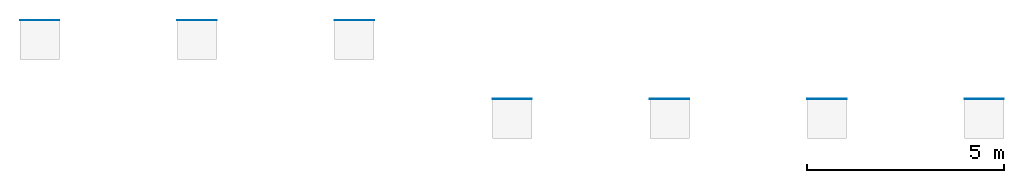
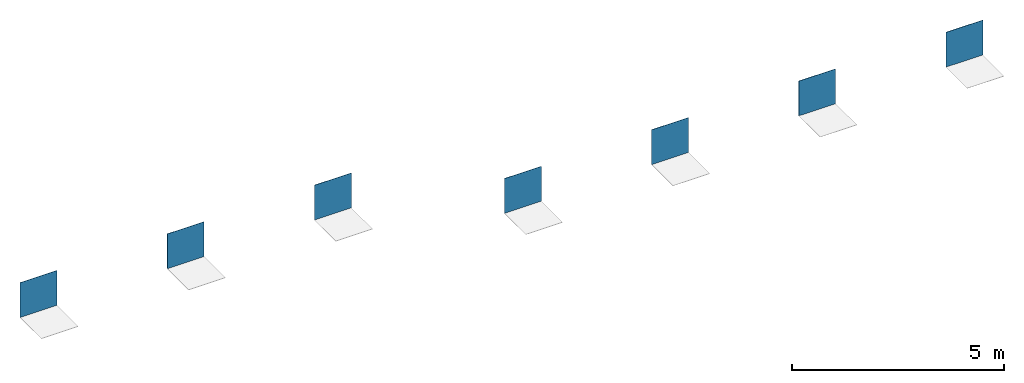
# One storey, part 1 of 2: 7 walls.
"""IFC2X3 building model written with IfcOpenShell, lengths in millimetres."""

import ifcopenshell
import ifcopenshell.guid

model = None  # the IFC model being written
_history = None  # IfcOwnerHistory: only IFC2X3 demands one
_inside = {}  # id of a spatial element -> (the spatial element, [elements in it])
_under = {}  # id of a project, library or spatial element -> (it, [spatial elements below it])
_declared = {}  # id of a project -> (the project, [libraries it declares])
_typed = {}  # id of a type object -> (the type object, [elements of that type])
_made_of = {}  # id of a material, layer set ... -> (it, [elements and type objects made of it])


def new_model(schema):
    """Start an empty IFC model of exactly this schema.

    Asked for "IFC4X3", IfcOpenShell would pick the latest addendum, in which some entities
    have other attributes; the version numbers below select the first issue.
    IFC2X3 requires an IfcOwnerHistory on every rooted entity: one is made here for all.
    """
    global model, _history
    if schema == "IFC4X3":
        model = ifcopenshell.file(schema_version=(4, 3, 0, 0))
    else:
        model = ifcopenshell.file(schema=schema)
    _inside.clear()
    _under.clear()
    _declared.clear()
    _typed.clear()
    _made_of.clear()
    _history = None
    if model.schema == "IFC2X3":
        org = make("IfcOrganization", Name="unknown")
        user = make(
            "IfcPersonAndOrganization",
            ThePerson=make("IfcPerson", FamilyName="unknown"),
            TheOrganization=org,
        )
        app = make(
            "IfcApplication",
            ApplicationDeveloper=org,
            Version="unknown",
            ApplicationFullName="unknown",
            ApplicationIdentifier="unknown",
        )
        _history = make(
            "IfcOwnerHistory",
            OwningUser=user,
            OwningApplication=app,
            ChangeAction="ADDED",
            CreationDate=0,
        )
    return model


def make(cls, **values):
    """One entity of the class cls with the attributes given. An attribute that is None is left unset."""
    return model.create_entity(
        cls, **{name: value for name, value in values.items() if value is not None}
    )


def entity(cls, *values):
    """Any entity or typed value of the class cls, its attributes in the order of the schema. None: left unset."""
    e = model.create_entity(cls)
    for i, value in enumerate(values):
        if value is not None:
            e[i] = value
    return e


def rooted(cls, **values):
    """An entity with a GlobalId (a new one), such as an element, a storey or a relation."""
    return make(cls, GlobalId=ifcopenshell.guid.new(), OwnerHistory=_history, **values)


def si_unit(unit_type, name, prefix=None):
    """IfcSIUnit, for example si_unit("LENGTHUNIT", "METRE", prefix="MILLI")."""
    return make("IfcSIUnit", UnitType=unit_type, Prefix=prefix, Name=name)


def converted_unit(unit_type, name, factor, base, dimensions=None, offset=None):
    """IfcConversionBasedUnit, such as the inch: factor (a typed value) times the base unit."""
    return make(
        "IfcConversionBasedUnit"
        if offset is None
        else "IfcConversionBasedUnitWithOffset",
        ConversionOffset=offset,
        Dimensions=None
        if dimensions is None
        else entity("IfcDimensionalExponents", *dimensions),
        UnitType=unit_type,
        Name=name,
        ConversionFactor=make(
            "IfcMeasureWithUnit", ValueComponent=factor, UnitComponent=base
        ),
    )


def derived_unit(unit_type, elements):
    """IfcDerivedUnit: a product of units, each with its exponent."""
    return make(
        "IfcDerivedUnit",
        Elements=[
            make("IfcDerivedUnitElement", Unit=unit, Exponent=power)
            for unit, power in elements
        ],
        UnitType=unit_type,
    )


def assignment(units):
    """IfcUnitAssignment: the units of a project."""
    return None if units is None else make("IfcUnitAssignment", Units=units)


def point(xyz):
    """IfcCartesianPoint."""
    return None if xyz is None else make("IfcCartesianPoint", Coordinates=xyz)


def direction(xyz):
    """IfcDirection."""
    return None if xyz is None else make("IfcDirection", DirectionRatios=xyz)


def frame(location, z_axis=None, x_axis=None):
    """IfcAxis2Placement3D, a coordinate frame: its origin and axes. An axis left out is left unset."""
    return make(
        "IfcAxis2Placement3D",
        Location=point(location),
        Axis=direction(z_axis),
        RefDirection=direction(x_axis),
    )


def frame_2d(location, x_axis=None):
    """IfcAxis2Placement2D, a coordinate frame in the plane: its origin and x axis."""
    return make(
        "IfcAxis2Placement2D", Location=point(location), RefDirection=direction(x_axis)
    )


def origin():
    """The frame at (0, 0, 0) with its axes left unset."""
    return frame((0.0, 0.0, 0.0))


def place(relative_to, where):
    """IfcLocalPlacement: puts the frame where relative to a parent placement (None: the world)."""
    return make(
        "IfcLocalPlacement", PlacementRelTo=relative_to, RelativePlacement=where
    )


def context(
    kind, dimensions, precision=None, world=None, true_north=None, identifier=None
):
    """IfcGeometricRepresentationContext, for example the 3D "Model" context."""
    return make(
        "IfcGeometricRepresentationContext",
        ContextIdentifier=identifier,
        ContextType=kind,
        CoordinateSpaceDimension=dimensions,
        Precision=precision,
        WorldCoordinateSystem=world,
        TrueNorth=true_north,
    )


def subcontext(parent, identifier, kind, view, scale=None):
    """IfcGeometricRepresentationSubContext, for example "Body" below "Model"."""
    return make(
        "IfcGeometricRepresentationSubContext",
        ContextIdentifier=identifier,
        ContextType=kind,
        ParentContext=parent,
        TargetScale=scale,
        TargetView=view,
    )


def project(units=None, contexts=None):
    """IfcProject with its units and contexts."""
    return rooted(
        "IfcProject",
        Name="project",
        RepresentationContexts=contexts,
        UnitsInContext=assignment(units),
    )


def spatial(cls, under=None, at=None, **own):
    """A site, building, storey or space (cls), placed at a placement, below another one or the project."""
    s = rooted(cls, ObjectPlacement=at, **own)
    if under is not None:
        _under.setdefault(under.id(), (under, []))[1].append(s)
    return s


def profile(cls, at=None, kind="AREA", **sizes):
    """A parametric profile (cls). Its sizes go by their IFC names, for example OverallWidth=200.0."""
    return make(cls, ProfileType=kind, Position=at, **sizes)


def rectangle(**sizes):
    """IfcRectangleProfileDef."""
    return profile("IfcRectangleProfileDef", **sizes)


def extrude(swept, where, along, depth):
    """IfcExtrudedAreaSolid: the profile swept, set in the frame where, extruded along a direction by depth."""
    return make(
        "IfcExtrudedAreaSolid",
        SweptArea=swept,
        Position=where,
        ExtrudedDirection=direction(along),
        Depth=depth,
    )


def shape(context_of_items, identifier, shape_type, items):
    """IfcShapeRepresentation: the items that make up one representation, for example the "Body"."""
    return make(
        "IfcShapeRepresentation",
        ContextOfItems=context_of_items,
        RepresentationIdentifier=identifier,
        RepresentationType=shape_type,
        Items=items,
    )


def material(Name=None, Category=None):
    """IfcMaterial."""
    return make("IfcMaterial", Name=Name, Category=Category)


def layer(
    of_material, thickness, ventilated=None, Name=None, Category=None, Priority=None
):
    """IfcMaterialLayer: one layer of a wall or slab, of a material (None: an air gap)."""
    return make(
        "IfcMaterialLayer",
        Material=of_material,
        LayerThickness=thickness,
        IsVentilated=ventilated,
        Name=Name,
        Category=Category,
        Priority=Priority,
    )


def layer_set(layers, Name=None):
    """IfcMaterialLayerSet."""
    return make("IfcMaterialLayerSet", MaterialLayers=layers, LayerSetName=Name)


def layer_usage(for_layer_set, set_direction, sense, offset, extent=None):
    """IfcMaterialLayerSetUsage: how a layer set lies in its element."""
    return make(
        "IfcMaterialLayerSetUsage",
        ForLayerSet=for_layer_set,
        LayerSetDirection=set_direction,
        DirectionSense=sense,
        OffsetFromReferenceLine=offset,
        ReferenceExtent=extent,
    )


def made_of(thing, what):
    """Note that an element or type object is made of a material, layer set ...; save() writes the relation."""
    if what is not None:
        _made_of.setdefault(what.id(), (what, []))[1].append(thing)
    return thing


def type_object(cls, material=None, **own):
    """A type object (cls), such as IfcWallType, which elements share."""
    return made_of(rooted(cls, **own), material)


def element(
    cls,
    number,
    at=None,
    inside=None,
    cuts=None,
    type_object=None,
    material=None,
    context=None,
    identifier="Body",
    shape_type=None,
    held_by="IfcProductDefinitionShape",
    body=None,
    shapes=None,
    **own,
):
    """One element of the class cls, such as IfcWall. Its Tag is "e" and its number.

    at: its placement. inside: the storey or other place that contains it. cuts: it is an
    opening in that element (IfcRelVoidsElement). A single representation is given by context,
    identifier, shape_type and body (its items); several are given by shapes. held_by: the class
    of the entity that holds the representations. save() writes the other relations.
    """
    e = rooted(cls, Tag="e%d" % number, ObjectPlacement=at, **own)
    if body is not None:
        shapes = [shape(context, identifier, shape_type, body)]
    if shapes is not None:
        e.Representation = make(held_by, Representations=shapes)
    if inside is not None:
        _inside.setdefault(inside.id(), (inside, []))[1].append(e)
    if cuts is not None:
        rooted(
            "IfcRelVoidsElement", RelatingBuildingElement=cuts, RelatedOpeningElement=e
        )
    if type_object is not None:
        _typed.setdefault(type_object.id(), (type_object, []))[1].append(e)
    return made_of(e, material)


def aggregate(whole, parts):
    """IfcRelAggregates: a whole, such as a stair, and the parts it consists of."""
    return rooted("IfcRelAggregates", RelatingObject=whole, RelatedObjects=parts)


def save(model, path):
    """Write the relations noted so far, then the file.

    IfcRelAggregates (storeys below a building ...), IfcRelContainedInSpatialStructure (elements
    in a storey), IfcRelDefinesByType, IfcRelAssociatesMaterial and IfcRelDeclares: one each for
    every whole, place, type object, material and project.
    """
    for whole, parts in _under.values():
        aggregate(whole, parts)
    for where, things in _inside.values():
        rooted(
            "IfcRelContainedInSpatialStructure",
            RelatedElements=things,
            RelatingStructure=where,
        )
    for kind, things in _typed.values():
        rooted("IfcRelDefinesByType", RelatedObjects=things, RelatingType=kind)
    for what, things in _made_of.values():
        rooted("IfcRelAssociatesMaterial", RelatedObjects=things, RelatingMaterial=what)
    for by, libraries in _declared.values():
        rooted("IfcRelDeclares", RelatingContext=by, RelatedDefinitions=libraries)
    model.write(path)


model = new_model("IFC2X3")

# Units and contexts
model_context = context("Model", 3, precision=0.01, world=origin(), true_north=direction((6.12303176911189e-17, 1.0)))
body_context = subcontext(model_context, "Body", "Model", "MODEL_VIEW")
ifc_project = project(units=[si_unit("LENGTHUNIT", "METRE", prefix="MILLI"), si_unit("AREAUNIT", "SQUARE_METRE"), si_unit("VOLUMEUNIT", "CUBIC_METRE"), converted_unit("PLANEANGLEUNIT", "DEGREE", entity("IfcRatioMeasure", 0.0174532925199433), si_unit("PLANEANGLEUNIT", "RADIAN"), dimensions=[0, 0, 0, 0, 0, 0, 0]), si_unit("MASSUNIT", "GRAM", prefix="KILO"), derived_unit("MASSDENSITYUNIT", [(si_unit("MASSUNIT", "GRAM", prefix="KILO"), 1), (si_unit("LENGTHUNIT", "METRE"), -3)]), derived_unit("MOMENTOFINERTIAUNIT", [(si_unit("LENGTHUNIT", "METRE"), 4)]), si_unit("TIMEUNIT", "SECOND"), si_unit("FREQUENCYUNIT", "HERTZ"), si_unit("THERMODYNAMICTEMPERATUREUNIT", "DEGREE_CELSIUS"), derived_unit("THERMALTRANSMITTANCEUNIT", [(si_unit("MASSUNIT", "GRAM", prefix="KILO"), 1), (si_unit("THERMODYNAMICTEMPERATUREUNIT", "KELVIN"), -1), (si_unit("TIMEUNIT", "SECOND"), -3)]), derived_unit("VOLUMETRICFLOWRATEUNIT", [(si_unit("LENGTHUNIT", "METRE"), 3), (si_unit("TIMEUNIT", "SECOND"), -1)]), si_unit("ELECTRICCURRENTUNIT", "AMPERE"), si_unit("ELECTRICVOLTAGEUNIT", "VOLT"), si_unit("POWERUNIT", "WATT"), si_unit("FORCEUNIT", "NEWTON", prefix="KILO"), si_unit("ILLUMINANCEUNIT", "LUX"), si_unit("LUMINOUSFLUXUNIT", "LUMEN"), si_unit("LUMINOUSINTENSITYUNIT", "CANDELA"), derived_unit("USERDEFINED", [(si_unit("MASSUNIT", "GRAM", prefix="KILO"), -1), (si_unit("LENGTHUNIT", "METRE"), -2), (si_unit("TIMEUNIT", "SECOND"), 3), (si_unit("LUMINOUSFLUXUNIT", "LUMEN"), 1)]), derived_unit("LINEARVELOCITYUNIT", [(si_unit("LENGTHUNIT", "METRE"), 1), (si_unit("TIMEUNIT", "SECOND"), -1)]), si_unit("PRESSUREUNIT", "PASCAL"), derived_unit("USERDEFINED", [(si_unit("LENGTHUNIT", "METRE"), -2), (si_unit("MASSUNIT", "GRAM", prefix="KILO"), 1), (si_unit("TIMEUNIT", "SECOND"), -2)]), derived_unit("LINEARFORCEUNIT", [(si_unit("MASSUNIT", "GRAM", prefix="KILO"), 1), (si_unit("LENGTHUNIT", "METRE"), 1), (si_unit("TIMEUNIT", "SECOND"), -2), (si_unit("LENGTHUNIT", "METRE"), -1)]), derived_unit("PLANARFORCEUNIT", [(si_unit("MASSUNIT", "GRAM", prefix="KILO"), 1), (si_unit("LENGTHUNIT", "METRE"), 1), (si_unit("TIMEUNIT", "SECOND"), -2), (si_unit("LENGTHUNIT", "METRE"), -2)])], contexts=[model_context])

# Site, building, storey
site_placement = place(None, origin())
site = spatial("IfcSite", under=ifc_project, at=site_placement, Name="Default", CompositionType="ELEMENT")
building_placement = place(site_placement, origin())
building = spatial("IfcBuilding", under=site, at=building_placement, CompositionType="ELEMENT")
storey_placement = place(building_placement, origin())
storey = spatial("IfcBuildingStorey", under=building, at=storey_placement, Name="Level 1", CompositionType="ELEMENT", Elevation=0.0)

# Walls
ifc_material_1 = material(Name="REVIGRÉS-LOCUS-DECOR-16,5x19-SOFT GRIP-HEXA FLOW BONE")
ifc_layer_1 = layer(ifc_material_1, 8.5)
ifc_layer_set_1 = layer_set([ifc_layer_1], Name="Basic Wall:REVIGRÉS-LOCUS-DECOR-16,5X19-SOFT GRIP-HEXA FLOW BONE")
ifc_layer_usage_1 = layer_usage(ifc_layer_set_1, "AXIS2", "NEGATIVE", 4.25)
wall_type_1 = type_object("IfcWallType", Name="Basic Wall:REVIGRÉS-LOCUS-DECOR-16,5X19-SOFT GRIP-HEXA FLOW BONE", PredefinedType="STANDARD", material=ifc_layer_set_1)
wall_1_placement = place(storey_placement, frame((2936.10173013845, 3108.07579736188, 0.0)))
element("IfcWallStandardCase", 1, at=wall_1_placement, inside=storey, type_object=wall_type_1, material=ifc_layer_usage_1, Name="Basic Wall:REVIGRÉS-LOCUS-DECOR-16,5X19-SOFT GRIP-HEXA FLOW BONE", ObjectType="Basic Wall:REVIGRÉS-LOCUS-DECOR-16,5X19-SOFT GRIP-HEXA FLOW BONE", context=body_context, shape_type="SweptSolid", body=[
    extrude(rectangle(XDim=1000.0, YDim=8.50000000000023, at=frame_2d((500.0, 0.0), x_axis=(-1.0, 0.0))), origin(), (0.0, 0.0, 1.0), 1000.0),
])
ifc_material_2 = material(Name="REVIGRÉS-LOCUS-DECOR-16,5x19-SOFT GRIP-HEXA FLOW SMOG")
ifc_layer_2 = layer(ifc_material_2, 8.5)
ifc_layer_set_2 = layer_set([ifc_layer_2], Name="Basic Wall:REVIGRÉS-LOCUS-DECOR-16,5X19-SOFT GRIP-HEXA FLOW SMOG")
ifc_layer_usage_2 = layer_usage(ifc_layer_set_2, "AXIS2", "NEGATIVE", 4.25)
wall_type_2 = type_object("IfcWallType", Name="Basic Wall:REVIGRÉS-LOCUS-DECOR-16,5X19-SOFT GRIP-HEXA FLOW SMOG", PredefinedType="STANDARD", material=ifc_layer_set_2)
wall_2_placement = place(storey_placement, frame((6936.10173013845, 3108.07579736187, 0.0)))
element("IfcWallStandardCase", 2, at=wall_2_placement, inside=storey, type_object=wall_type_2, material=ifc_layer_usage_2, Name="Basic Wall:REVIGRÉS-LOCUS-DECOR-16,5X19-SOFT GRIP-HEXA FLOW SMOG", ObjectType="Basic Wall:REVIGRÉS-LOCUS-DECOR-16,5X19-SOFT GRIP-HEXA FLOW SMOG", context=body_context, shape_type="SweptSolid", body=[
    extrude(rectangle(XDim=1000.0, YDim=8.50000000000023, at=frame_2d((500.0, 0.0), x_axis=(-1.0, 0.0))), origin(), (0.0, 0.0, 1.0), 1000.0),
])
ifc_material_3 = material(Name="REVIGRÉS-LOCUS-DECOR-16,5x19-SOFT GRIP-HEXA SHADOW GRIS")
ifc_layer_3 = layer(ifc_material_3, 8.5)
ifc_layer_set_3 = layer_set([ifc_layer_3], Name="Basic Wall:REVIGRÉS-LOCUS-DECOR-16,5X19-SOFT GRIP-HEXA SHADOW GRIS")
ifc_layer_usage_3 = layer_usage(ifc_layer_set_3, "AXIS2", "NEGATIVE", 4.25)
wall_type_3 = type_object("IfcWallType", Name="Basic Wall:REVIGRÉS-LOCUS-DECOR-16,5X19-SOFT GRIP-HEXA SHADOW GRIS", PredefinedType="STANDARD", material=ifc_layer_set_3)
wall_3_placement = place(storey_placement, frame((10936.1017301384, 3108.07579736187, 0.0)))
element("IfcWallStandardCase", 3, at=wall_3_placement, inside=storey, type_object=wall_type_3, material=ifc_layer_usage_3, Name="Basic Wall:REVIGRÉS-LOCUS-DECOR-16,5X19-SOFT GRIP-HEXA SHADOW GRIS", ObjectType="Basic Wall:REVIGRÉS-LOCUS-DECOR-16,5X19-SOFT GRIP-HEXA SHADOW GRIS", context=body_context, shape_type="SweptSolid", body=[
    extrude(rectangle(XDim=999.999999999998, YDim=8.50000000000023, at=frame_2d((499.999999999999, 0.0), x_axis=(-1.0, 0.0))), origin(), (0.0, 0.0, 1.0), 1000.0),
])
ifc_material_4 = material(Name="REVIGRÉS-LOCUS-DECOR-30X30-SILK-STRATUS 9 LOCUS MIX BRICK")
ifc_layer_4 = layer(ifc_material_4, 8.5)
ifc_layer_set_4 = layer_set([ifc_layer_4], Name="Basic Wall:REVIGRÉS-LOCUS-DECOR-30X30-SILK-STRATUS 9 LOCUS MIX BRICK")
ifc_layer_usage_4 = layer_usage(ifc_layer_set_4, "AXIS2", "NEGATIVE", 4.25)
wall_type_4 = type_object("IfcWallType", Name="Basic Wall:REVIGRÉS-LOCUS-DECOR-30X30-SILK-STRATUS 9 LOCUS MIX BRICK", PredefinedType="STANDARD", material=ifc_layer_set_4)
wall_4_placement = place(storey_placement, frame((14948.6427139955, 1108.07579736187, 0.0)))
element("IfcWallStandardCase", 4, at=wall_4_placement, inside=storey, type_object=wall_type_4, material=ifc_layer_usage_4, Name="Basic Wall:REVIGRÉS-LOCUS-DECOR-30X30-SILK-STRATUS 9 LOCUS MIX BRICK", ObjectType="Basic Wall:REVIGRÉS-LOCUS-DECOR-30X30-SILK-STRATUS 9 LOCUS MIX BRICK", context=body_context, shape_type="SweptSolid", body=[
    extrude(rectangle(XDim=1000.0, YDim=8.49999999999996, at=frame_2d((500.0, 0.0), x_axis=(-1.0, 0.0))), origin(), (0.0, 0.0, 1.0), 1000.0),
])
ifc_material_5 = material(Name="REVIGRÉS-LOCUS-DECOR-30X30-SILK-STRATUS 9 LOCUS MIX COBALTO")
ifc_layer_5 = layer(ifc_material_5, 8.5)
ifc_layer_set_5 = layer_set([ifc_layer_5], Name="Basic Wall:REVIGRÉS-LOCUS-DECOR-30X30-SILK-STRATUS 9 LOCUS MIX COBALTO")
ifc_layer_usage_5 = layer_usage(ifc_layer_set_5, "AXIS2", "NEGATIVE", 4.25)
wall_type_5 = type_object("IfcWallType", Name="Basic Wall:REVIGRÉS-LOCUS-DECOR-30X30-SILK-STRATUS 9 LOCUS MIX COBALTO", PredefinedType="STANDARD", material=ifc_layer_set_5)
wall_5_placement = place(storey_placement, frame((18948.6427139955, 1108.07579736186, 0.0)))
element("IfcWallStandardCase", 5, at=wall_5_placement, inside=storey, type_object=wall_type_5, material=ifc_layer_usage_5, Name="Basic Wall:REVIGRÉS-LOCUS-DECOR-30X30-SILK-STRATUS 9 LOCUS MIX COBALTO", ObjectType="Basic Wall:REVIGRÉS-LOCUS-DECOR-30X30-SILK-STRATUS 9 LOCUS MIX COBALTO", context=body_context, shape_type="SweptSolid", body=[
    extrude(rectangle(XDim=1000.0, YDim=8.49999999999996, at=frame_2d((500.0, 0.0), x_axis=(-1.0, 0.0))), origin(), (0.0, 0.0, 1.0), 1000.0),
])
ifc_material_6 = material(Name="REVIGRÉS-LOCUS-DECOR-30X30-SILK-STRATUS 9 LOCUS MIX OLIVA")
ifc_layer_6 = layer(ifc_material_6, 8.5)
ifc_layer_set_6 = layer_set([ifc_layer_6], Name="Basic Wall:REVIGRÉS-LOCUS-DECOR-30X30-SILK-STRATUS 9 LOCUS MIX OLIVA")
ifc_layer_usage_6 = layer_usage(ifc_layer_set_6, "AXIS2", "NEGATIVE", 4.25)
wall_type_6 = type_object("IfcWallType", Name="Basic Wall:REVIGRÉS-LOCUS-DECOR-30X30-SILK-STRATUS 9 LOCUS MIX OLIVA", PredefinedType="STANDARD", material=ifc_layer_set_6)
wall_6_placement = place(storey_placement, frame((22948.6427139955, 1108.07579736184, 0.0)))
element("IfcWallStandardCase", 6, at=wall_6_placement, inside=storey, type_object=wall_type_6, material=ifc_layer_usage_6, Name="Basic Wall:REVIGRÉS-LOCUS-DECOR-30X30-SILK-STRATUS 9 LOCUS MIX OLIVA", ObjectType="Basic Wall:REVIGRÉS-LOCUS-DECOR-30X30-SILK-STRATUS 9 LOCUS MIX OLIVA", context=body_context, shape_type="SweptSolid", body=[
    extrude(rectangle(XDim=999.999999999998, YDim=8.49999999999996, at=frame_2d((499.999999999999, 0.0), x_axis=(-1.0, 0.0))), origin(), (0.0, 0.0, 1.0), 1000.0),
])
ifc_material_7 = material(Name="REVIGRÉS-LOCUS-DECOR-30X30-SILK-STRATUS 9 LOCUS MIX OCRE")
ifc_layer_7 = layer(ifc_material_7, 8.5)
ifc_layer_set_7 = layer_set([ifc_layer_7], Name="Basic Wall:REVIGRÉS-LOCUS-DECOR-30X30-SILK-STRATUS 9 LOCUS MIX OCRE")
ifc_layer_usage_7 = layer_usage(ifc_layer_set_7, "AXIS2", "NEGATIVE", 4.25)
wall_type_7 = type_object("IfcWallType", Name="Basic Wall:REVIGRÉS-LOCUS-DECOR-30X30-SILK-STRATUS 9 LOCUS MIX OCRE", PredefinedType="STANDARD", material=ifc_layer_set_7)
wall_7_placement = place(storey_placement, frame((26948.6427139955, 1108.07579736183, 0.0)))
element("IfcWallStandardCase", 7, at=wall_7_placement, inside=storey, type_object=wall_type_7, material=ifc_layer_usage_7, Name="Basic Wall:REVIGRÉS-LOCUS-DECOR-30X30-SILK-STRATUS 9 LOCUS MIX OCRE", ObjectType="Basic Wall:REVIGRÉS-LOCUS-DECOR-30X30-SILK-STRATUS 9 LOCUS MIX OCRE", context=body_context, shape_type="SweptSolid", body=[
    extrude(rectangle(XDim=999.999999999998, YDim=8.49999999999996, at=frame_2d((499.999999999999, 0.0), x_axis=(-1.0, 0.0))), origin(), (0.0, 0.0, 1.0), 1000.0),
])

save(model, "model.ifc")
